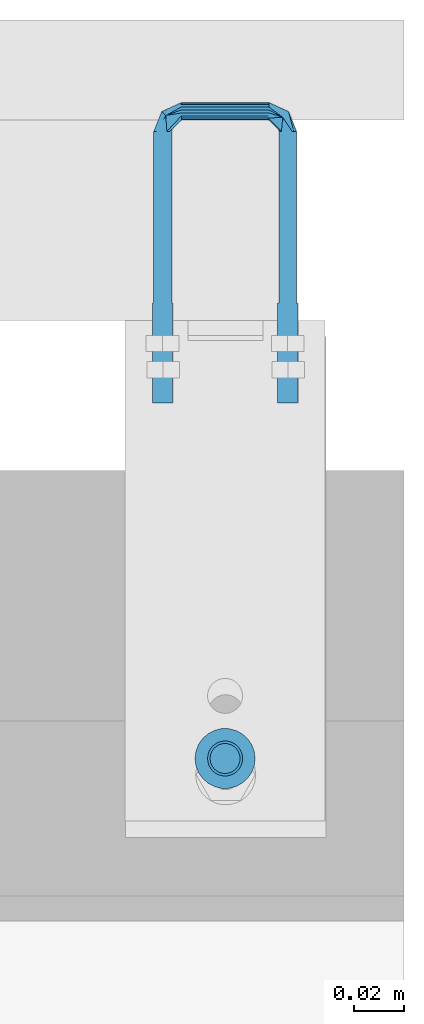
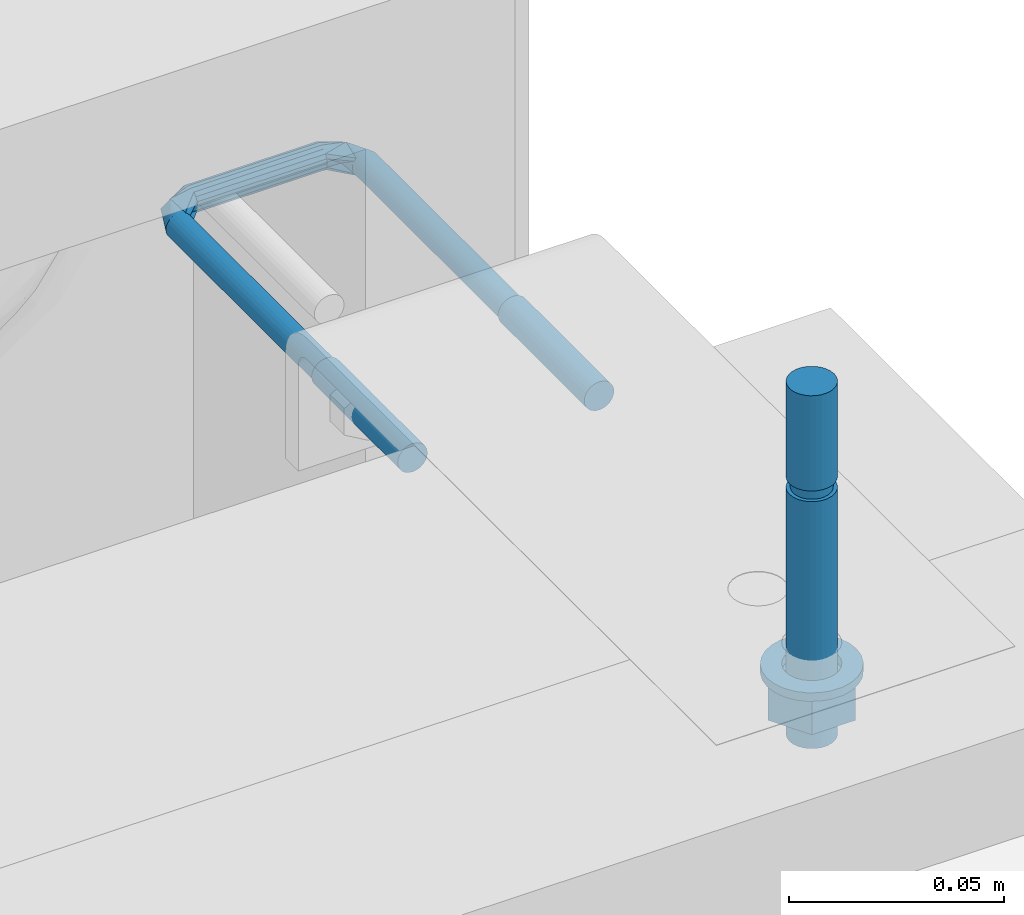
# One storey, part 10 of 13: 2 assemblies.
"""IFC2X3 building model written with IfcOpenShell, lengths in metres."""

from ifc_helpers import new_model, entity, si_unit, converted_unit, derived_unit, direction, frame, frame_2d, origin, place, context, subcontext, project, spatial, polyline, circle_curve, parameter, trimmed, segment, composite_curve, circle, hollow_circle, outline, extrude, faceted_brep, source, transform, mapped, material, type_object, type_shapes, element, save


model = new_model("IFC2X3")

# Units and contexts
model_context = context("Model", 3, precision=1e-05, world=origin(), true_north=direction((6.123031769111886e-17, 1.0)))
body_context = subcontext(model_context, "Body", "Model", "MODEL_VIEW")
ifc_project = project(units=[si_unit("LENGTHUNIT", "METRE"), si_unit("AREAUNIT", "SQUARE_METRE"), converted_unit("PLANEANGLEUNIT", "DEGREE", entity("IfcPlaneAngleMeasure", 0.017453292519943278), si_unit("PLANEANGLEUNIT", "RADIAN"), dimensions=[0, 0, 0, 0, 0, 0, 0]), si_unit("VOLUMEUNIT", "CUBIC_METRE"), derived_unit("THERMALTRANSMITTANCEUNIT", [(si_unit("MASSUNIT", "GRAM", prefix="KILO"), 1), (si_unit("THERMODYNAMICTEMPERATUREUNIT", "KELVIN"), -1), (si_unit("TIMEUNIT", "SECOND"), -3)]), derived_unit("USERDEFINED", [(si_unit("MASSUNIT", "GRAM", prefix="KILO"), 1), (si_unit("THERMODYNAMICTEMPERATUREUNIT", "KELVIN"), -1), (si_unit("TIMEUNIT", "SECOND"), -2)]), derived_unit("THERMALRESISTANCEUNIT", [(si_unit("MASSUNIT", "GRAM", prefix="KILO"), -1), (si_unit("TIMEUNIT", "SECOND"), 3), (si_unit("THERMODYNAMICTEMPERATUREUNIT", "KELVIN"), 1)]), derived_unit("MASSDENSITYUNIT", [(si_unit("MASSUNIT", "GRAM", prefix="KILO"), 1), (si_unit("LENGTHUNIT", "METRE"), -3)]), derived_unit("VAPORPERMEABILITYUNIT", [(si_unit("LENGTHUNIT", "METRE"), -1), (si_unit("TIMEUNIT", "SECOND"), 1)]), derived_unit("USERDEFINED", [(si_unit("MASSUNIT", "GRAM", prefix="KILO"), 1), (si_unit("TIMEUNIT", "SECOND"), -3), (si_unit("LENGTHUNIT", "METRE"), 3), (si_unit("ELECTRICCURRENTUNIT", "AMPERE"), -2)]), si_unit("PRESSUREUNIT", "PASCAL")], contexts=[model_context])

# Site, building, storey
site_placement = place(None, origin())
site = spatial("IfcSite", under=ifc_project, at=site_placement, Name="Default", CompositionType="ELEMENT")
building_placement = place(site_placement, origin())
building = spatial("IfcBuilding", under=site, at=building_placement, CompositionType="ELEMENT")
storey_placement = place(building_placement, origin())
storey = spatial("IfcBuildingStorey", under=building, at=storey_placement, Name="L0", CompositionType="ELEMENT", Elevation=0.0)

# Assemblies
ifc_material = material(Name="REC_Acero, S 275JR (Zincado)")
type_product_1 = type_object("IfcTypeProduct", Name="REC-AEM12-100:AEM12-100", material=ifc_material)
shared_shape_1 = source(origin(), body_context, "Body", "SweptSolid", [
    extrude(outline(polyline([(-0.005890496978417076, -0.010202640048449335), (0.005890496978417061, -0.010202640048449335), (0.01178099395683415, 0.0), (0.005890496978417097, 0.010202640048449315), (-0.0058904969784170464, 0.010202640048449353), (-0.011780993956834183, 0.0), (-0.005890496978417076, -0.010202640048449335)]), holes=[composite_curve([segment(trimmed(circle_curve(frame_2d((6.043164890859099e-09, 0.0), x_axis=(1.0, 0.0)), 0.005999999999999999), [parameter(3.053332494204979e-13)], [parameter(180.0)], True, "PARAMETER"), False, "CONTINUOUS"), segment(trimmed(circle_curve(frame_2d((6.043164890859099e-09, 0.0), x_axis=(1.0, 0.0)), 0.005999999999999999), [parameter(179.99999999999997)], [parameter(0.0)], True, "PARAMETER"), False, "CONTINUOUS")], self_intersect=False)]), frame((-6.043164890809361e-09, 0.0, 0.002399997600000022)), (0.0, 0.0, 1.0), 0.009600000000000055),
    extrude(hollow_circle(Radius=0.011999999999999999, WallThickness=0.004999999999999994, at=frame_2d((1.062573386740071e-19, -1.9386534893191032e-17), x_axis=(1.0, 0.0))), origin(), (0.0, 0.0, 1.0), 0.002399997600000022),
    extrude(circle(Radius=0.006, at=frame_2d((1.3218592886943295e-19, -9.69326744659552e-18), x_axis=(1.0, 0.0))), frame((0.0, 0.0, -0.05)), (0.0, 0.0, 1.0), 0.07),
    extrude(circle(Radius=0.006, at=frame_2d((1.3218592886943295e-19, -9.69326744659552e-18), x_axis=(1.0, 0.0))), frame((0.0, 0.0, -0.08)), (0.0, 0.0, 1.0), 0.027000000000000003),
    extrude(circle(Radius=0.005, at=frame_2d((1.3218592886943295e-19, -8.077722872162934e-18), x_axis=(1.0, 0.0))), frame((0.0, 0.0, -0.053)), (0.0, 0.0, 1.0), 0.002999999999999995),
])
type_shapes(type_product_1, [shared_shape_1])
assembly_1_placement = place(storey_placement, frame((7.816247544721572, 15.819530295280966, 2.7139999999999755), z_axis=(0.0, 0.0, -1.0), x_axis=(1.0, 0.0, 0.0)))
element("IfcElementAssembly", 1, at=assembly_1_placement, inside=storey, type_object=type_product_1, material=ifc_material, Name="REC-AEM12-100:AEM12-100", ObjectType="REC-AEM12-100:AEM12-100", AssemblyPlace="NOTDEFINED", PredefinedType="NOTDEFINED", context=body_context, shape_type="MappedRepresentation", body=[
    mapped(shared_shape_1, transform((0.0, 0.0, 0.0), scale=1.0)),
])
type_product_2 = type_object("IfcTypeProduct", Name="REC-AU12050M8EQ:AU12050M8EQ", material=ifc_material)
shared_shape_2 = source(origin(), body_context, "Body", "Brep", [
    faceted_brep([(0.023250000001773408, 0.003031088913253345, 0.013000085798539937), (0.022999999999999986, 0.0034641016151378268, 0.013000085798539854), (0.022525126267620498, 0.0024748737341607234, 0.013000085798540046), (0.02396472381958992, 0.003863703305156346, 0.013000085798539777), (0.024094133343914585, 0.003380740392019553, 0.01300008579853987), (0.02500000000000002, 0.00400000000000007, 0.01300008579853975), (0.025000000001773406, 0.0035000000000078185, 0.013000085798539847), (0.026035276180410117, 0.0038637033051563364, 0.013000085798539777), (0.02590586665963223, 0.0033807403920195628, 0.01300008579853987), (0.027000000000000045, 0.0034641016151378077, 0.013000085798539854), (0.026750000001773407, 0.003031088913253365, 0.013000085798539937), (0.027474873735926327, 0.0024748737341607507, 0.013000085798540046), (0.027828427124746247, 0.002828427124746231, 0.013000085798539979), (0.02803108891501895, 0.001750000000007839, 0.013000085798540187), (0.02846410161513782, 0.002000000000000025, 0.013000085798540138), (0.02838074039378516, 0.0009058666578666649, 0.013000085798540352), (0.02886370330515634, 0.0010352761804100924, 0.013000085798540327), (0.028500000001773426, 0.0, 0.013000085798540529), (0.029000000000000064, 0.0, 0.013000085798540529), (0.02838074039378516, -0.0009058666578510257, 0.013000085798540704), (0.028863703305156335, -0.0010352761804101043, 0.013000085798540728), (0.02803108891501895, -0.0017499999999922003, 0.013000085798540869), (0.028464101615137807, -0.0020000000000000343, 0.013000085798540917), (0.027474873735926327, -0.0024748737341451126, 0.013000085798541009), (0.027828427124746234, -0.002828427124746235, 0.013000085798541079), (0.026750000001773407, -0.003031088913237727, 0.013000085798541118), (0.027000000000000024, -0.0034641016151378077, 0.013000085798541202), (0.02590586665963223, -0.003380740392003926, 0.013000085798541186), (0.026035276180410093, -0.00386370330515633, 0.013000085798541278), (0.02500000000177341, -0.0034999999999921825, 0.013000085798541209), (0.024999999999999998, -0.004000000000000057, 0.013000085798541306), (0.024094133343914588, -0.003380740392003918, 0.013000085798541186), (0.0239647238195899, -0.003863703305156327, 0.013000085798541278), (0.02325000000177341, -0.0030310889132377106, 0.013000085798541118), (0.022999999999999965, -0.003464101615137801, 0.013000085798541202), (0.022171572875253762, -0.002828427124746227, 0.013000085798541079), (0.0225251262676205, -0.0024748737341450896, 0.013000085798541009), (0.021535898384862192, -0.0020000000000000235, 0.013000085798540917), (0.021968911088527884, -0.001749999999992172, 0.013000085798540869), (0.021136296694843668, -0.0010352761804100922, 0.013000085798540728), (0.021619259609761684, -0.0009058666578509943, 0.013000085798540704), (0.02099999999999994, 0.0, 0.013000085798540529), (0.021500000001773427, 0.0, 0.013000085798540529), (0.02113629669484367, 0.0010352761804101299, 0.013000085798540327), (0.021619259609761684, 0.0009058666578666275, 0.013000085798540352), (0.021535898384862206, 0.0020000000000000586, 0.013000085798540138), (0.02196891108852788, 0.0017500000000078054, 0.013000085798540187), (0.022171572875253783, 0.0028284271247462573, 0.013000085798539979), (-0.023000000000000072, -0.0034641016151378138, 0.013000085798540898), (-0.02217157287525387, -0.0028284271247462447, 0.013000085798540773), (-0.02153589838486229, -0.0020000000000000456, 0.013000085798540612), (-0.021136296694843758, -0.0010352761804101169, 0.013000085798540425), (-0.021619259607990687, -0.0009058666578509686, 0.013000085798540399), (-0.02196891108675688, -0.0017499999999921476, 0.013000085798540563), (-0.022525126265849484, -0.002474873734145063, 0.013000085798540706), (-0.023250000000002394, -0.003031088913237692, 0.013000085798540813), (-0.024094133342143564, -0.0033807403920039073, 0.01300008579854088), (-0.025000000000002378, -0.0034999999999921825, 0.013000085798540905), (-0.0259058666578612, -0.003380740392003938, 0.01300008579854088), (-0.02675000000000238, -0.003031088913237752, 0.013000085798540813), (-0.027474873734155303, -0.002474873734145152, 0.013000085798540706), (-0.028031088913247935, -0.001749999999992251, 0.013000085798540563), (-0.02838074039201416, -0.0009058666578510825, 0.013000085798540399), (-0.028500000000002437, 0.0, 0.013000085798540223), (-0.028380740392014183, 0.0009058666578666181, 0.013000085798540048), (-0.028031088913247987, 0.0017500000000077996, 0.013000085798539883), (-0.027474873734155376, 0.002474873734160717, 0.013000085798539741), (-0.026750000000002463, 0.00303108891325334, 0.013000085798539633), (-0.02590586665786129, 0.00338074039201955, 0.013000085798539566), (-0.025000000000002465, 0.0035000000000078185, 0.013000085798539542), (-0.024094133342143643, 0.0033807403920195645, 0.013000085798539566), (-0.023250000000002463, 0.0030310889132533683, 0.013000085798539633), (-0.022525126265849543, 0.0024748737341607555, 0.013000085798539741), (-0.02196891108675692, 0.0017500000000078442, 0.013000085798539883), (-0.021619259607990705, 0.0009058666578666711, 0.013000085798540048), (-0.021000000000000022, 0.0, 0.013000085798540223), (-0.021136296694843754, 0.0010352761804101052, 0.013000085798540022), (-0.02153589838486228, 0.0020000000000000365, 0.013000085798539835), (-0.02217157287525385, 0.0028284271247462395, 0.013000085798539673), (-0.02300000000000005, 0.0034641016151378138, 0.013000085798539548), (-0.023964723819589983, 0.0038637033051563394, 0.013000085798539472), (-0.02500000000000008, 0.00400000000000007, 0.013000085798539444), (-0.02603527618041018, 0.003863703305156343, 0.013000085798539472), (-0.02700000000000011, 0.0034641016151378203, 0.013000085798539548), (-0.027828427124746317, 0.0028284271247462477, 0.013000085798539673), (-0.02846410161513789, 0.0020000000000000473, 0.013000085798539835), (-0.028863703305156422, 0.0010352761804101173, 0.013000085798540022), (-0.02900000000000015, 0.0, 0.013000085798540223), (-0.028863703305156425, -0.0010352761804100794, 0.013000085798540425), (-0.028464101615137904, -0.002000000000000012, 0.013000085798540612), (-0.027828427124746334, -0.0028284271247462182, 0.013000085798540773), (-0.02700000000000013, -0.003464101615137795, 0.013000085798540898), (-0.026035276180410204, -0.003863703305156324, 0.013000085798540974), (-0.025000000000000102, -0.004000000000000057, 0.013000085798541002), (-0.023964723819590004, -0.0038637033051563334, 0.013000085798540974), (0.0239647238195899, -0.0038637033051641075, -0.026999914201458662), (0.022999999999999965, -0.003464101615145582, -0.026999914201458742), (0.022171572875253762, -0.002828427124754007, -0.026999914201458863), (0.021535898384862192, -0.0020000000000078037, -0.026999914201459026), (0.021136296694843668, -0.0010352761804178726, -0.02699991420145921), (0.02099999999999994, 0.0, -0.026999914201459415), (0.02113629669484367, 0.0010352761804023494, -0.026999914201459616), (0.021535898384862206, 0.0019999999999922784, -0.026999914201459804), (0.022171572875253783, 0.002828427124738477, -0.026999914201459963), (0.022999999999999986, 0.003464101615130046, -0.026999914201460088), (0.02396472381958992, 0.0038637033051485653, -0.026999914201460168), (0.02500000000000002, 0.003999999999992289, -0.026999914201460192), (0.026035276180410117, 0.0038637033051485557, -0.026999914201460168), (0.027000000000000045, 0.003464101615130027, -0.026999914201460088), (0.027828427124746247, 0.0028284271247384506, -0.026999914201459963), (0.02846410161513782, 0.0019999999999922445, -0.026999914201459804), (0.02886370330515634, 0.001035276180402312, -0.026999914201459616), (0.029000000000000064, 0.0, -0.026999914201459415), (0.028863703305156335, -0.0010352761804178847, -0.02699991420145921), (0.028464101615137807, -0.0020000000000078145, -0.026999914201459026), (0.027828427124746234, -0.002828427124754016, -0.026999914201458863), (0.027000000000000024, -0.003464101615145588, -0.026999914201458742), (0.026035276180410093, -0.0038637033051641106, -0.026999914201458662), (0.024999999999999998, -0.0040000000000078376, -0.026999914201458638), (-0.023964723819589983, 0.003863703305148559, -0.026999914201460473), (-0.02300000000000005, 0.0034641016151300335, -0.02699991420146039), (-0.02217157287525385, 0.002828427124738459, -0.02699991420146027), (-0.02153589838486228, 0.0019999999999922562, -0.02699991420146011), (-0.021136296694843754, 0.0010352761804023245, -0.02699991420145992), (-0.021000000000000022, 0.0, -0.02699991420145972), (-0.021136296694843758, -0.0010352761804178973, -0.026999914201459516), (-0.02153589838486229, -0.002000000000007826, -0.026999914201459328), (-0.02217157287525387, -0.0028284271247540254, -0.02699991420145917), (-0.023000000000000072, -0.0034641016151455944, -0.026999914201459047), (-0.023964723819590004, -0.0038637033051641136, -0.026999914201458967), (-0.025000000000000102, -0.0040000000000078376, -0.02699991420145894), (-0.026035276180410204, -0.003863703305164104, -0.026999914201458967), (-0.02700000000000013, -0.0034641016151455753, -0.026999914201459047), (-0.027828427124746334, -0.002828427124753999, -0.02699991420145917), (-0.028464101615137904, -0.0020000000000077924, -0.026999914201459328), (-0.028863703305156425, -0.0010352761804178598, -0.026999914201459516), (-0.02900000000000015, 0.0, -0.02699991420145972), (-0.028863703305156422, 0.0010352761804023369, -0.02699991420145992), (-0.02846410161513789, 0.001999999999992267, -0.02699991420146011), (-0.027828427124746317, 0.0028284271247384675, -0.02699991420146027), (-0.02700000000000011, 0.00346410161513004, -0.02699991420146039), (-0.02603527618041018, 0.0038637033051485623, -0.026999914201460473), (-0.02500000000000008, 0.003999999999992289, -0.026999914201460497), (-0.021500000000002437, 0.0, 0.013000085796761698), (-0.021500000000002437, 0.0, 0.08151281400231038), (-0.021619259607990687, -0.0009058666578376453, 0.08151281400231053), (-0.021968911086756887, -0.0017499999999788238, 0.08151281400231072), (-0.022525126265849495, -0.0024748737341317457, 0.08151281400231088), (-0.023250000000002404, -0.0030310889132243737, 0.08151281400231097), (-0.024094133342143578, -0.0033807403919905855, 0.08151281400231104), (-0.0250000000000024, -0.0034999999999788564, 0.08151281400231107), (-0.0267500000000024, -0.0030310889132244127, 0.08151281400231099), (-0.027474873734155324, -0.002474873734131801, 0.08151281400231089), (-0.02590586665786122, -0.0033807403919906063, 0.08151281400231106), (-0.028380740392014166, -0.0009058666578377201, 0.08151281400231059), (-0.028500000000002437, 0.0, 0.0815128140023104), (-0.028031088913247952, -0.001749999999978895, 0.08151281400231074), (-0.028380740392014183, 0.0009058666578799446, 0.08151281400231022), (-0.028031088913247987, 0.001750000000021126, 0.08151281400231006), (-0.027474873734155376, 0.0024748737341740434, 0.08151281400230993), (-0.02675000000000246, 0.0030310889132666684, 0.08151281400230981), (-0.02590586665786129, 0.0033807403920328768, 0.08151281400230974), (-0.025000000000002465, 0.003500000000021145, 0.08151281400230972), (-0.024094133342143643, 0.003380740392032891, 0.08151281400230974), (-0.023250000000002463, 0.003031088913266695, 0.08151281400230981), (-0.022525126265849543, 0.002474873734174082, 0.08151281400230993), (-0.021619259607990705, 0.0009058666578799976, 0.08151281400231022), (-0.02196891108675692, 0.0017500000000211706, 0.08151281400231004), (-0.023021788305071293, -0.0034912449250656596, 0.0871482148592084), (-0.01736775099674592, -0.002249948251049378, 0.08681909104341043), (-0.02722998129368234, 0.0, 0.08468391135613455), (-0.02532077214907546, 0.0, 0.0894509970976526), (-0.020299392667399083, 0.0, 0.08457288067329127), (-0.01734606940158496, -0.001196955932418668, 0.08621111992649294), (-0.017338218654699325, 0.0, 0.08600008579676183), (-0.01743353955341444, -0.0034464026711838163, 0.08888991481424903), (-0.01746793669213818, -0.0034468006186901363, 0.09010800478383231), (-0.017398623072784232, -0.0030301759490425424, 0.08774850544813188), (-0.017498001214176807, -0.003031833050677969, 0.09124879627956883), (-0.017535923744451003, -0.001196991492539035, 0.09278903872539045), (-0.01752129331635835, -0.0022495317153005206, 0.09218143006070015), (-0.017540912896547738, 0.0, 0.09300008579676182), (-0.023021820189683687, 0.003491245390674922, 0.08714817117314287), (-0.017467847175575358, 0.0034473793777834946, 0.0901047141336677), (-0.017433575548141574, 0.0034466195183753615, 0.08889114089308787), (-0.017367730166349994, 0.0022492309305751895, 0.0868184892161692), (-0.017497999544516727, 0.0030318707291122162, 0.09124873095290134), (-0.017521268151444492, 0.002250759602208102, 0.09218039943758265), (-0.01739859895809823, 0.0030297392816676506, 0.08774775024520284), (-0.017535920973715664, 0.0011973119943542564, 0.09278892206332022), (-0.017346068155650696, 0.001196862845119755, 0.0862110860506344), (0.01733821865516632, 0.0, 0.08600008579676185), (0.01734606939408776, -0.0011969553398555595, 0.0862111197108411), (0.017398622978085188, -0.0030301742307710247, 0.08774850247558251), (0.017433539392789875, -0.0034464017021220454, 0.08888990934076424), (0.017367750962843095, -0.0022499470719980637, 0.08681909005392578), (0.017467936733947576, -0.0034468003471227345, 0.09010800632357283), (0.017498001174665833, -0.003031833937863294, 0.09124879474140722), (0.017521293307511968, -0.0022495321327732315, 0.0921814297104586), (0.01753592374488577, -0.0011969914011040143, 0.09278903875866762), (0.017540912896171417, 0.0, 0.09300008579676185), (0.01753592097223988, 0.0011973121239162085, 0.09278892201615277), (0.01752126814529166, 0.002250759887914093, 0.09218039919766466), (0.017497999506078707, 0.0030318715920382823, 0.09124872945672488), (0.017467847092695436, 0.003447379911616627, 0.09010471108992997), (0.01743357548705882, 0.0034466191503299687, 0.08889113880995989), (0.017398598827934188, 0.0030297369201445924, 0.08774774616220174), (0.0173460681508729, 0.0011968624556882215, 0.08621108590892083), (0.017367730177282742, 0.0022492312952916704, 0.08681848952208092), (0.022525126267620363, -0.0024748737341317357, 0.08151281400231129), (0.023697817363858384, -0.0032894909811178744, 0.08781334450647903), (0.020299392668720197, 0.0, 0.08457288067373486), (0.02196891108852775, -0.0017499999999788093, 0.08151281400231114), (0.023250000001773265, -0.003031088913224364, 0.08151281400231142), (0.025320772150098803, 0.0, 0.08945099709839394), (0.028380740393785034, -0.0009058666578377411, 0.08151281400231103), (0.028500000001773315, 0.0, 0.08151281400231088), (0.02722998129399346, 0.0, 0.0846839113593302), (0.026750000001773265, -0.0030310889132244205, 0.08151281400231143), (0.025905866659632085, -0.0033807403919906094, 0.0815128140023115), (0.021619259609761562, -0.0009058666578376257, 0.08151281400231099), (0.021500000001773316, 0.0, 0.0815128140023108), (0.02409413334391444, -0.0033807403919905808, 0.08151281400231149), (0.02747487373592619, -0.0024748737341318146, 0.08151281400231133), (0.025000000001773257, -0.0034999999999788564, 0.08151281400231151), (0.02803108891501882, -0.0017499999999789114, 0.0815128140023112), (0.023697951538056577, 0.0032894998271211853, 0.08781316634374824), (0.021968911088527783, 0.0017500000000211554, 0.08151281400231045), (0.022525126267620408, 0.0024748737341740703, 0.08151281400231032), (0.025905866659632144, 0.0033807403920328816, 0.08151281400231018), (0.025000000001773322, 0.003500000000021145, 0.08151281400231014), (0.028031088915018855, 0.001750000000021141, 0.08151281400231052), (0.028380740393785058, 0.0009058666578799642, 0.08151281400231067), (0.0240941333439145, 0.0033807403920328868, 0.08151281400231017), (0.026750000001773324, 0.0030310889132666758, 0.08151281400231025), (0.027474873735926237, 0.0024748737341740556, 0.08151281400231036), (0.02161925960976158, 0.0009058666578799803, 0.08151281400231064), (0.023250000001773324, 0.003031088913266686, 0.08151281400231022)], [[[0, 1, 2]], [[1, 0, 3]], [[4, 3, 0]], [[5, 3, 4]], [[6, 5, 4]], [[6, 7, 5]], [[7, 6, 8]], [[7, 8, 9]], [[10, 9, 8]], [[11, 9, 10]], [[12, 9, 11]], [[13, 12, 11]], [[13, 14, 12]], [[13, 15, 14]], [[15, 16, 14]], [[16, 15, 17]], [[16, 17, 18]], [[17, 19, 18]], [[19, 20, 18]], [[19, 21, 20]], [[20, 21, 22]], [[21, 23, 22]], [[23, 24, 22]], [[25, 24, 23]], [[24, 25, 26]], [[26, 25, 27]], [[27, 28, 26]], [[27, 29, 28]], [[28, 29, 30]], [[30, 29, 31]], [[31, 32, 30]], [[32, 31, 33]], [[33, 34, 32]], [[35, 34, 33]], [[35, 33, 36]], [[37, 35, 36]], [[36, 38, 37]], [[38, 39, 37]], [[38, 40, 39]], [[40, 41, 39]], [[40, 42, 41]], [[42, 43, 41]], [[44, 43, 42]], [[44, 45, 43]], [[44, 46, 45]], [[2, 47, 46]], [[46, 47, 45]], [[2, 1, 47]], [[48, 49, 50, 51, 52, 53, 54, 55, 56, 57, 58, 59, 60, 61, 62, 63, 64, 65, 66, 67, 68, 69, 70, 71, 72, 73, 74, 75, 76, 77, 78, 79, 80, 81, 82, 83, 84, 85, 86, 87, 88, 89, 90, 91, 92, 93, 94]], [[95, 96, 97, 98, 99, 100, 101, 102, 103, 104, 105, 106, 107, 108, 109, 110, 111, 112, 113, 114, 115, 116, 117, 118]], [[119, 120, 121, 122, 123, 124, 125, 126, 127, 128, 129, 130, 131, 132, 133, 134, 135, 136, 137, 138, 139, 140, 141, 142]], [[99, 39, 41, 100]], [[98, 37, 39, 99]], [[34, 35, 97, 96]], [[98, 97, 35, 37]], [[32, 34, 96, 95]], [[95, 118, 30, 32]], [[117, 28, 30, 118]], [[116, 26, 28, 117]], [[22, 24, 115, 114]], [[116, 115, 24, 26]], [[20, 22, 114, 113]], [[18, 20, 113, 112]], [[111, 16, 18, 112]], [[110, 14, 16, 111]], [[9, 12, 109, 108]], [[110, 109, 12, 14]], [[7, 9, 108, 107]], [[5, 7, 107, 106]], [[105, 3, 5, 106]], [[104, 1, 3, 105]], [[45, 47, 103, 102]], [[104, 103, 47, 1]], [[43, 45, 102, 101]], [[41, 43, 101, 100]], [[143, 144, 145, 52]], [[146, 53, 52, 145]], [[54, 147, 148, 55]], [[146, 147, 54, 53]], [[55, 148, 149, 56]], [[56, 149, 150, 57]], [[151, 152, 60, 59]], [[153, 151, 59, 58]], [[154, 155, 63, 62]], [[156, 154, 62, 61]], [[152, 156, 61, 60]], [[58, 57, 150, 153]], [[157, 64, 63, 155]], [[158, 65, 64, 157]], [[66, 159, 160, 67]], [[158, 159, 66, 65]], [[67, 160, 161, 68]], [[68, 161, 162, 69]], [[70, 163, 164, 71]], [[165, 72, 71, 164]], [[166, 144, 143, 74]], [[167, 166, 74, 73]], [[72, 165, 167, 73]], [[70, 69, 162, 163]], [[149, 148, 168]], [[168, 148, 147]], [[169, 147, 146]], [[169, 168, 147]], [[150, 168, 153]], [[156, 152, 170]], [[170, 152, 171]], [[151, 153, 168]], [[151, 171, 152]], [[155, 154, 170]], [[146, 145, 172]], [[172, 173, 146]], [[173, 172, 174]], [[156, 170, 154]], [[175, 176, 168]], [[168, 169, 177]], [[169, 146, 173]], [[176, 178, 168]], [[175, 168, 177]], [[171, 151, 168]], [[149, 168, 150]], [[168, 178, 171]], [[179, 171, 180]], [[181, 171, 179]], [[180, 171, 178]], [[172, 145, 144]], [[171, 159, 170]], [[157, 170, 158]], [[157, 155, 170]], [[160, 159, 171]], [[160, 171, 182]], [[183, 184, 182]], [[170, 159, 158]], [[161, 182, 162]], [[162, 182, 163]], [[165, 164, 182]], [[167, 172, 166]], [[165, 185, 167]], [[163, 182, 164]], [[161, 160, 182]], [[186, 183, 182]], [[186, 171, 187]], [[188, 182, 184]], [[171, 189, 187]], [[189, 171, 181]], [[144, 166, 172]], [[174, 172, 190]], [[165, 182, 185]], [[190, 172, 167]], [[167, 185, 190]], [[188, 185, 182]], [[186, 182, 171]], [[191, 192, 174]], [[193, 194, 177]], [[195, 193, 169]], [[192, 195, 173]], [[173, 174, 192]], [[177, 169, 193]], [[175, 177, 194]], [[173, 195, 169]], [[194, 196, 175]], [[176, 196, 197]], [[180, 198, 199]], [[197, 198, 178]], [[199, 200, 179]], [[176, 197, 178]], [[199, 179, 180]], [[180, 178, 198]], [[179, 200, 181]], [[196, 176, 175]], [[189, 200, 201]], [[186, 202, 203]], [[201, 202, 187]], [[183, 203, 204]], [[181, 200, 189]], [[187, 189, 201]], [[202, 186, 187]], [[203, 183, 186]], [[204, 184, 183]], [[205, 206, 188]], [[207, 191, 174]], [[208, 207, 185]], [[206, 208, 185]], [[188, 184, 205]], [[190, 185, 207]], [[174, 190, 207]], [[188, 206, 185]], [[205, 184, 204]], [[209, 193, 195]], [[194, 193, 210]], [[192, 191, 211]], [[195, 192, 212]], [[210, 193, 213]], [[214, 200, 199]], [[214, 199, 198]], [[196, 210, 197]], [[196, 194, 210]], [[210, 198, 197]], [[211, 212, 192]], [[215, 216, 217]], [[218, 210, 219]], [[220, 212, 211]], [[221, 220, 211]], [[210, 214, 198]], [[222, 210, 213]], [[209, 213, 193]], [[212, 209, 195]], [[223, 210, 218]], [[219, 210, 224]], [[225, 217, 223]], [[214, 223, 217]], [[215, 217, 225]], [[223, 214, 210]], [[224, 210, 222]], [[201, 214, 202]], [[214, 201, 200]], [[226, 203, 202]], [[226, 202, 214]], [[204, 226, 205]], [[205, 226, 206]], [[227, 207, 208]], [[207, 211, 191]], [[227, 211, 207]], [[208, 206, 228]], [[229, 230, 226]], [[231, 217, 232]], [[230, 233, 226]], [[234, 226, 235]], [[203, 226, 204]], [[231, 235, 217]], [[232, 217, 216]], [[226, 214, 235]], [[214, 217, 235]], [[227, 236, 211]], [[221, 211, 236]], [[237, 206, 226]], [[228, 206, 237]], [[227, 208, 228]], [[233, 237, 226]], [[226, 234, 229]], [[221, 42, 40, 220]], [[38, 212, 220, 40]], [[209, 36, 33, 213]], [[38, 36, 209, 212]], [[213, 33, 31, 222]], [[222, 31, 29, 224]], [[25, 23, 223, 218]], [[27, 25, 218, 219]], [[19, 17, 216, 215]], [[21, 19, 215, 225]], [[23, 21, 225, 223]], [[219, 224, 29, 27]], [[15, 13, 231, 232]], [[17, 15, 232, 216]], [[10, 8, 229, 234]], [[11, 10, 234, 235]], [[13, 11, 235, 231]], [[229, 8, 6, 230]], [[0, 2, 228, 237]], [[4, 0, 237, 233]], [[44, 42, 221, 236]], [[46, 44, 236, 227]], [[2, 46, 227, 228]], [[233, 230, 6, 4]], [[143, 51, 75]], [[52, 51, 143]], [[74, 143, 75]], [[135, 88, 87, 136]], [[134, 89, 88, 135]], [[91, 90, 133, 132]], [[134, 133, 90, 89]], [[92, 91, 132, 131]], [[93, 92, 131, 130]], [[129, 94, 93, 130]], [[128, 48, 94, 129]], [[50, 49, 127, 126]], [[128, 127, 49, 48]], [[51, 50, 126, 125]], [[75, 51, 125, 124]], [[123, 76, 75, 124]], [[122, 77, 76, 123]], [[79, 78, 121, 120]], [[122, 121, 78, 77]], [[80, 79, 120, 119]], [[119, 142, 81, 80]], [[141, 82, 81, 142]], [[140, 83, 82, 141]], [[85, 84, 139, 138]], [[140, 139, 84, 83]], [[86, 85, 138, 137]], [[87, 86, 137, 136]]]),
])
type_shapes(type_product_2, [shared_shape_2])
assembly_2_placement = place(storey_placement, frame((7.816247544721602, 15.988530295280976, 2.694915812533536), z_axis=(0.0, 1.0, 0.0), x_axis=(-1.0, 0.0, 0.0)))
element("IfcElementAssembly", 2, at=assembly_2_placement, inside=storey, type_object=type_product_2, material=ifc_material, Name="REC-AU12050M8EQ:AU12050M8EQ", ObjectType="REC-AU12050M8EQ:AU12050M8EQ", AssemblyPlace="NOTDEFINED", PredefinedType="NOTDEFINED", context=body_context, shape_type="MappedRepresentation", body=[
    mapped(shared_shape_2, transform((0.0, 0.0, 0.0), scale=1.0)),
])

save(model, "model.ifc")
